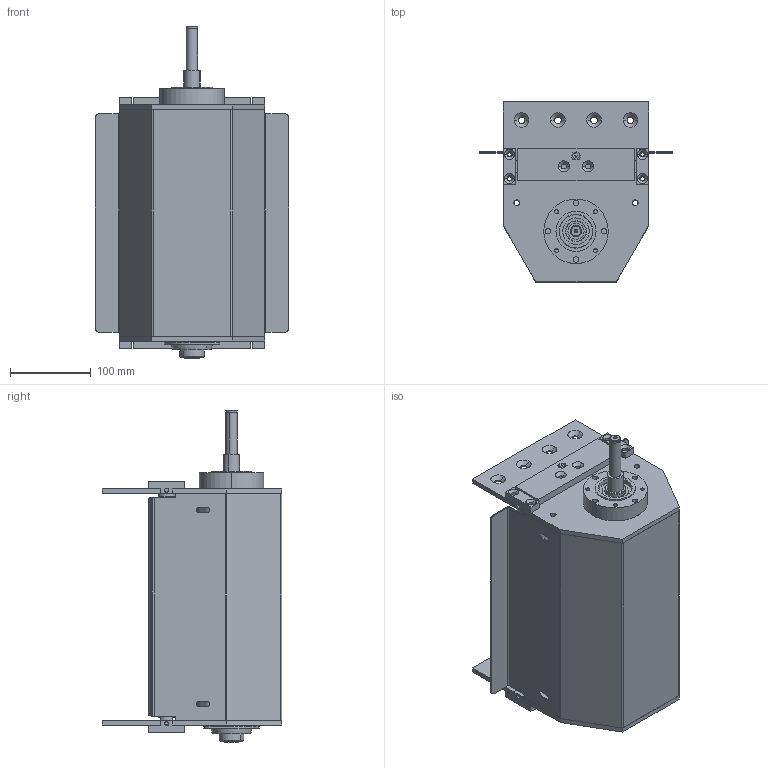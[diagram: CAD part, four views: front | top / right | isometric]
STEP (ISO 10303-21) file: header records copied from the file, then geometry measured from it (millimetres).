
FILE_DESCRIPTION (( 'STEP AP203' ), '1' );
FILE_NAME ('084.050.KCS.30.250.STEP', '2019-07-29T13:45:54', ( '' ), ( '' ), 'SwSTEP 2.0', 'SolidWorks 2018', '' );
FILE_SCHEMA (( 'CONFIG_CONTROL_DESIGN' ));
Length unit declared in the file: millimetre
Products named in the file (15): 084.817.070_Default<A macchina>; 084.802.012_Solo centrale; 084.802.009; 084.814.001-1; 084.802.020; 084.817.069; 084.802.003; CUSCINETTI A SFERE_6004-2RS; 084.810.003; 084.050.KCS.30.250; 084.802.004-1; 084.812.003; 084.802.021; 084.817.067; 084.817.068
Assembly tree (25 placements, depth 2):
  084.050.KCS.30.250
    084.817.068  x2
    084.817.070_Default<A macchina>
    084.817.067
    084.817.069  x2
    084.802.009
    084.802.021
    084.814.001-1
    084.810.003  x2
    084.802.004-1  x4
    084.802.020
    084.812.003
    084.802.003  x2
    CUSCINETTI A SFERE_6004-2RS  x4
    084.802.012_Solo centrale  x2
Bounding box: 240 x 223 x 412 mm (x, y, z)
Volume: 2136329.1 mm3; surface area: 1046527.4 mm2
Topology: 27 solids, 27 shells, 980 faces, 2436 edges, 1567 vertices
Faces by surface type: plane 418, cylinder 346, cone 138, torus 68, sphere 10
Entity records: 20645 total; most frequent: DIRECTION 3472, CARTESIAN_POINT 3274, ORIENTED_EDGE 3048, EDGE_CURVE 1524, AXIS2_PLACEMENT_3D 1322, VERTEX_POINT 982, LINE 828, VECTOR 828
